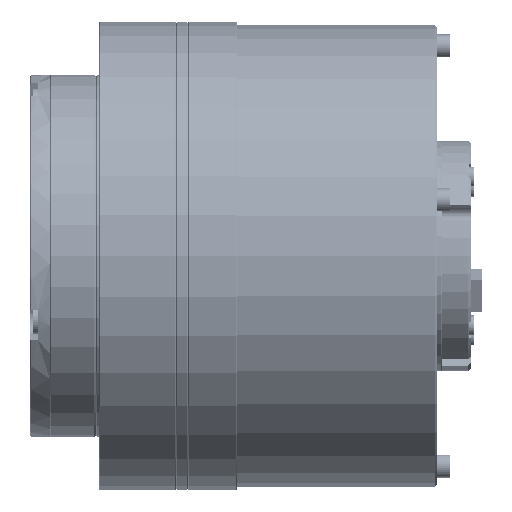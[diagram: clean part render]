
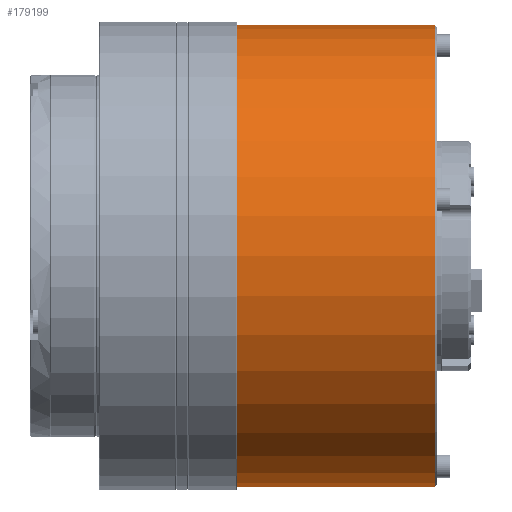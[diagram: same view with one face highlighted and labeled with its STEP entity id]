
A CAD part, left-side view. The second image highlights one B-rep face of the part: STEP entity #179199.
In plain terms, the highlighted cylindrical face has radius 70 mm (diameter 140 mm), a partial arc.
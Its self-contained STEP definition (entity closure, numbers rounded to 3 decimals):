
#1862 = CARTESIAN_POINT ( 'NONE',  ( 0., 33.5, 0. ) ) ;
#3291 = AXIS2_PLACEMENT_3D ( 'NONE', #167185, #59722, #185139 ) ;
#9389 = ORIENTED_EDGE ( 'NONE', *, *, #171902, .F. ) ;
#19927 = DIRECTION ( 'NONE',  ( 0., 0., 1. ) ) ;
#23900 = VERTEX_POINT ( 'NONE', #107428 ) ;
#29210 = VERTEX_POINT ( 'NONE', #165107 ) ;
#43832 = EDGE_CURVE ( 'NONE', #23900, #187085, #188971, .T. ) ;
#45678 = DIRECTION ( 'NONE',  ( 0., 0., -1. ) ) ;
#47635 = CARTESIAN_POINT ( 'NONE',  ( 0., 33.5, -70. ) ) ;
#59722 = DIRECTION ( 'NONE',  ( 0., 1., 0. ) ) ;
#62320 = FACE_OUTER_BOUND ( 'NONE', #163404, .T. ) ;
#69834 = CARTESIAN_POINT ( 'NONE',  ( 0., -26.5, 70. ) ) ;
#71978 = DIRECTION ( 'NONE',  ( 0., -1., 0. ) ) ;
#72579 = LINE ( 'NONE', #161429, #162429 ) ;
#77210 = ORIENTED_EDGE ( 'NONE', *, *, #43832, .T. ) ;
#82022 = CARTESIAN_POINT ( 'NONE',  ( 0., 50., -70. ) ) ;
#89867 = AXIS2_PLACEMENT_3D ( 'NONE', #1862, #127334, #19927 ) ;
#100086 = DIRECTION ( 'NONE',  ( 0., -1., 0. ) ) ;
#107428 = CARTESIAN_POINT ( 'NONE',  ( 0., -26.5, -70. ) ) ;
#115397 = LINE ( 'NONE', #82022, #205067 ) ;
#118321 = EDGE_CURVE ( 'NONE', #29210, #187085, #72579, .T. ) ;
#123642 = CIRCLE ( 'NONE', #89867, 70. ) ;
#127334 = DIRECTION ( 'NONE',  ( 0., 1., 0. ) ) ;
#138969 = ORIENTED_EDGE ( 'NONE', *, *, #210931, .T. ) ;
#150408 = AXIS2_PLACEMENT_3D ( 'NONE', #206279, #188281, #45678 ) ;
#161429 = CARTESIAN_POINT ( 'NONE',  ( 0., 50., 70. ) ) ;
#162429 = VECTOR ( 'NONE', #71978, 1000. ) ;
#163404 = EDGE_LOOP ( 'NONE', ( #213904, #9389, #138969, #77210 ) ) ;
#165107 = CARTESIAN_POINT ( 'NONE',  ( 0., 33.5, 70. ) ) ;
#167185 = CARTESIAN_POINT ( 'NONE',  ( 0., -26.5, 0. ) ) ;
#171902 = EDGE_CURVE ( 'NONE', #222327, #29210, #123642, .T. ) ;
#179199 = ADVANCED_FACE ( 'NONE', ( #62320 ), #230618, .T. ) ;
#185139 = DIRECTION ( 'NONE',  ( 0., 0., -1. ) ) ;
#187085 = VERTEX_POINT ( 'NONE', #69834 ) ;
#188281 = DIRECTION ( 'NONE',  ( 0., -1., 0. ) ) ;
#188971 = CIRCLE ( 'NONE', #3291, 70. ) ;
#205067 = VECTOR ( 'NONE', #100086, 1000. ) ;
#206279 = CARTESIAN_POINT ( 'NONE',  ( 0., 50., 0. ) ) ;
#210931 = EDGE_CURVE ( 'NONE', #222327, #23900, #115397, .T. ) ;
#213904 = ORIENTED_EDGE ( 'NONE', *, *, #118321, .F. ) ;
#222327 = VERTEX_POINT ( 'NONE', #47635 ) ;
#230618 = CYLINDRICAL_SURFACE ( 'NONE', #150408, 70. ) ;
